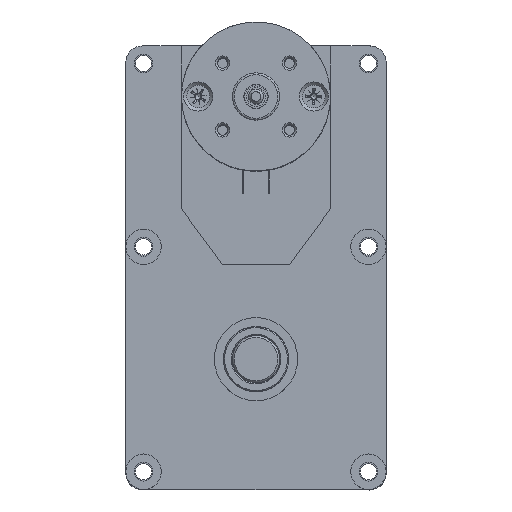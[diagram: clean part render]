
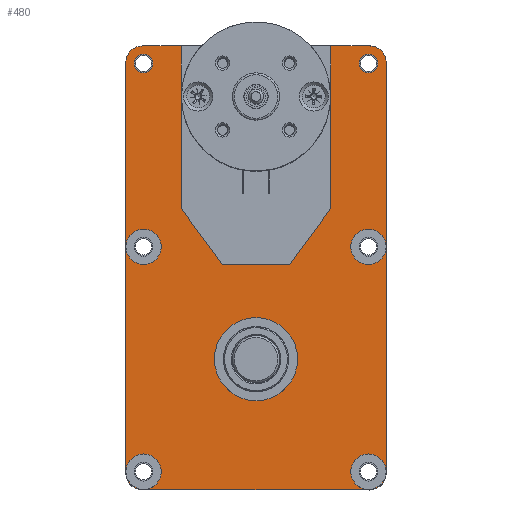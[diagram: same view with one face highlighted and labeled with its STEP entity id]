
A CAD part, top view. The second image highlights one B-rep face of the part: STEP entity #480.
In plain terms, the highlighted planar face has unit normal (0, 0, 1).
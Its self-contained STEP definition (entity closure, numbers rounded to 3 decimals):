
#112=CARTESIAN_POINT('',(25.645,99.833,13.8));
#113=VERTEX_POINT('',#112);
#114=CARTESIAN_POINT('',(25.645,56.117,13.8));
#115=VERTEX_POINT('',#114);
#116=CARTESIAN_POINT('',(25.645,99.833,13.8));
#117=DIRECTION('',(0.0,-1.0,0.0));
#118=VECTOR('',#117,43.716);
#119=LINE('',#116,#118);
#120=EDGE_CURVE('',#113,#115,#119,.T.);
#152=CARTESIAN_POINT('',(14.645,41.117,13.8));
#153=VERTEX_POINT('',#152);
#154=CARTESIAN_POINT('',(25.645,56.117,13.8));
#155=DIRECTION('',(-0.591,-0.806,0.0));
#156=VECTOR('',#155,18.601);
#157=LINE('',#154,#156);
#158=EDGE_CURVE('',#115,#153,#157,.T.);
#183=CARTESIAN_POINT('',(-3.355,41.117,13.8));
#184=VERTEX_POINT('',#183);
#185=CARTESIAN_POINT('',(14.645,41.117,13.8));
#186=DIRECTION('',(-1.0,0.0,0.0));
#187=VECTOR('',#186,18.);
#188=LINE('',#185,#187);
#189=EDGE_CURVE('',#153,#184,#188,.T.);
#214=CARTESIAN_POINT('',(-14.355,56.117,13.8));
#215=VERTEX_POINT('',#214);
#216=CARTESIAN_POINT('',(-3.355,41.117,13.8));
#217=DIRECTION('',(-0.591,0.806,0.0));
#218=VECTOR('',#217,18.601);
#219=LINE('',#216,#218);
#220=EDGE_CURVE('',#184,#215,#219,.T.);
#245=CARTESIAN_POINT('',(-14.355,99.833,13.8));
#246=VERTEX_POINT('',#245);
#247=CARTESIAN_POINT('',(-14.355,56.117,13.8));
#248=DIRECTION('',(0.0,1.0,0.0));
#249=VECTOR('',#248,43.716);
#250=LINE('',#247,#249);
#251=EDGE_CURVE('',#215,#246,#250,.T.);
#301=CARTESIAN_POINT('',(5.645,40.27,13.8));
#302=DIRECTION('',(0.0,0.0,1.0));
#303=DIRECTION('',(1.0,0.0,0.0));
#304=AXIS2_PLACEMENT_3D('',#301,#302,#303);
#305=PLANE('',#304);
#306=ORIENTED_EDGE('',*,*,#120,.T.);
#307=ORIENTED_EDGE('',*,*,#158,.T.);
#308=ORIENTED_EDGE('',*,*,#189,.T.);
#309=ORIENTED_EDGE('',*,*,#220,.T.);
#310=ORIENTED_EDGE('',*,*,#251,.T.);
#311=CARTESIAN_POINT('',(-24.78,99.833,13.8));
#312=VERTEX_POINT('',#311);
#313=CARTESIAN_POINT('',(-24.78,99.833,13.8));
#314=DIRECTION('',(1.0,0.0,0.0));
#315=VECTOR('',#314,10.425);
#316=LINE('',#313,#315);
#317=EDGE_CURVE('',#312,#246,#316,.T.);
#318=ORIENTED_EDGE('',*,*,#317,.F.);
#319=CARTESIAN_POINT('',(-29.28,95.333,13.8));
#320=VERTEX_POINT('',#319);
#321=CARTESIAN_POINT('',(-24.78,95.333,13.8));
#322=DIRECTION('',(0.0,0.0,-1.0));
#323=DIRECTION('',(0.0,-1.0,0.0));
#324=AXIS2_PLACEMENT_3D('',#321,#322,#323);
#325=CIRCLE('',#324,4.5);
#326=EDGE_CURVE('',#320,#312,#325,.T.);
#327=ORIENTED_EDGE('',*,*,#326,.F.);
#328=CARTESIAN_POINT('',(-29.28,45.934,13.8));
#329=VERTEX_POINT('',#328);
#330=CARTESIAN_POINT('',(-29.28,45.934,13.8));
#331=DIRECTION('',(0.0,1.0,0.0));
#332=VECTOR('',#331,49.399);
#333=LINE('',#330,#332);
#334=EDGE_CURVE('',#329,#320,#333,.T.);
#335=ORIENTED_EDGE('',*,*,#334,.F.);
#336=CARTESIAN_POINT('',(-24.53,45.934,13.8));
#337=DIRECTION('',(0.0,0.0,-1.0));
#338=DIRECTION('',(-1.0,0.0,0.0));
#339=AXIS2_PLACEMENT_3D('',#336,#337,#338);
#340=CIRCLE('',#339,4.75);
#341=EDGE_CURVE('',#329,#329,#340,.T.);
#342=ORIENTED_EDGE('',*,*,#341,.T.);
#343=CARTESIAN_POINT('',(-29.28,-14.416,13.8));
#344=VERTEX_POINT('',#343);
#345=CARTESIAN_POINT('',(-29.28,-14.416,13.8));
#346=DIRECTION('',(0.0,1.0,0.0));
#347=VECTOR('',#346,60.35);
#348=LINE('',#345,#347);
#349=EDGE_CURVE('',#344,#329,#348,.T.);
#350=ORIENTED_EDGE('',*,*,#349,.F.);
#351=CARTESIAN_POINT('',(-24.53,-14.416,13.8));
#352=DIRECTION('',(0.0,0.0,-1.0));
#353=DIRECTION('',(-1.0,0.0,0.0));
#354=AXIS2_PLACEMENT_3D('',#351,#352,#353);
#355=CIRCLE('',#354,4.75);
#356=EDGE_CURVE('',#344,#344,#355,.T.);
#357=ORIENTED_EDGE('',*,*,#356,.T.);
#358=CARTESIAN_POINT('',(-29.28,-14.793,13.8));
#359=VERTEX_POINT('',#358);
#360=CARTESIAN_POINT('',(-29.28,-14.793,13.8));
#361=DIRECTION('',(0.0,1.0,0.0));
#362=VECTOR('',#361,0.377);
#363=LINE('',#360,#362);
#364=EDGE_CURVE('',#359,#344,#363,.T.);
#365=ORIENTED_EDGE('',*,*,#364,.F.);
#366=CARTESIAN_POINT('',(-24.78,-19.293,13.8));
#367=VERTEX_POINT('',#366);
#368=CARTESIAN_POINT('',(-24.78,-14.793,13.8));
#369=DIRECTION('',(0.0,0.0,-1.0));
#370=DIRECTION('',(1.0,0.0,0.0));
#371=AXIS2_PLACEMENT_3D('',#368,#369,#370);
#372=CIRCLE('',#371,4.5);
#373=EDGE_CURVE('',#367,#359,#372,.T.);
#374=ORIENTED_EDGE('',*,*,#373,.F.);
#375=CARTESIAN_POINT('',(36.07,-19.293,13.8));
#376=VERTEX_POINT('',#375);
#377=CARTESIAN_POINT('',(36.07,-19.293,13.8));
#378=DIRECTION('',(-1.0,0.0,0.0));
#379=VECTOR('',#378,60.85);
#380=LINE('',#377,#379);
#381=EDGE_CURVE('',#376,#367,#380,.T.);
#382=ORIENTED_EDGE('',*,*,#381,.F.);
#383=CARTESIAN_POINT('',(40.57,-14.793,13.8));
#384=VERTEX_POINT('',#383);
#385=CARTESIAN_POINT('',(36.07,-14.793,13.8));
#386=DIRECTION('',(0.0,0.0,-1.0));
#387=DIRECTION('',(0.0,1.0,0.0));
#388=AXIS2_PLACEMENT_3D('',#385,#386,#387);
#389=CIRCLE('',#388,4.5);
#390=EDGE_CURVE('',#384,#376,#389,.T.);
#391=ORIENTED_EDGE('',*,*,#390,.F.);
#392=CARTESIAN_POINT('',(40.57,-14.416,13.8));
#393=VERTEX_POINT('',#392);
#394=CARTESIAN_POINT('',(40.57,-14.416,13.8));
#395=DIRECTION('',(0.0,-1.0,0.0));
#396=VECTOR('',#395,0.377);
#397=LINE('',#394,#396);
#398=EDGE_CURVE('',#393,#384,#397,.T.);
#399=ORIENTED_EDGE('',*,*,#398,.F.);
#400=CARTESIAN_POINT('',(35.82,-14.416,13.8));
#401=DIRECTION('',(0.0,0.0,-1.0));
#402=DIRECTION('',(-1.0,0.0,0.0));
#403=AXIS2_PLACEMENT_3D('',#400,#401,#402);
#404=CIRCLE('',#403,4.75);
#405=EDGE_CURVE('',#393,#393,#404,.T.);
#406=ORIENTED_EDGE('',*,*,#405,.T.);
#407=CARTESIAN_POINT('',(40.57,45.934,13.8));
#408=VERTEX_POINT('',#407);
#409=CARTESIAN_POINT('',(40.57,45.934,13.8));
#410=DIRECTION('',(0.0,-1.0,0.0));
#411=VECTOR('',#410,60.35);
#412=LINE('',#409,#411);
#413=EDGE_CURVE('',#408,#393,#412,.T.);
#414=ORIENTED_EDGE('',*,*,#413,.F.);
#415=CARTESIAN_POINT('',(35.82,45.934,13.8));
#416=DIRECTION('',(0.0,0.0,-1.0));
#417=DIRECTION('',(-1.0,0.0,0.0));
#418=AXIS2_PLACEMENT_3D('',#415,#416,#417);
#419=CIRCLE('',#418,4.75);
#420=EDGE_CURVE('',#408,#408,#419,.T.);
#421=ORIENTED_EDGE('',*,*,#420,.T.);
#422=CARTESIAN_POINT('',(40.57,95.333,13.8));
#423=VERTEX_POINT('',#422);
#424=CARTESIAN_POINT('',(40.57,95.333,13.8));
#425=DIRECTION('',(0.0,-1.0,0.0));
#426=VECTOR('',#425,49.399);
#427=LINE('',#424,#426);
#428=EDGE_CURVE('',#423,#408,#427,.T.);
#429=ORIENTED_EDGE('',*,*,#428,.F.);
#430=CARTESIAN_POINT('',(36.07,99.833,13.8));
#431=VERTEX_POINT('',#430);
#432=CARTESIAN_POINT('',(36.07,95.333,13.8));
#433=DIRECTION('',(0.0,0.0,-1.0));
#434=DIRECTION('',(-1.0,0.0,0.0));
#435=AXIS2_PLACEMENT_3D('',#432,#433,#434);
#436=CIRCLE('',#435,4.5);
#437=EDGE_CURVE('',#431,#423,#436,.T.);
#438=ORIENTED_EDGE('',*,*,#437,.F.);
#439=CARTESIAN_POINT('',(25.645,99.833,13.8));
#440=DIRECTION('',(1.0,0.0,0.0));
#441=VECTOR('',#440,10.425);
#442=LINE('',#439,#441);
#443=EDGE_CURVE('',#113,#431,#442,.T.);
#444=ORIENTED_EDGE('',*,*,#443,.F.);
#445=EDGE_LOOP('',(#306,#307,#308,#309,#310,#318,#327,#335,#342,#350,#357,#365,#374,#382,#391,#399,#406,#414,#421,#429,#438,#444));
#446=FACE_OUTER_BOUND('',#445,.T.);
#447=CARTESIAN_POINT('',(-22.005,95.134,13.8));
#448=VERTEX_POINT('',#447);
#449=CARTESIAN_POINT('',(-24.53,95.134,13.8));
#450=DIRECTION('',(0.0,0.0,-1.0));
#451=DIRECTION('',(-1.0,0.0,0.0));
#452=AXIS2_PLACEMENT_3D('',#449,#450,#451);
#453=CIRCLE('',#452,2.525);
#454=EDGE_CURVE('',#448,#448,#453,.T.);
#455=ORIENTED_EDGE('',*,*,#454,.T.);
#456=EDGE_LOOP('',(#455));
#457=FACE_BOUND('',#456,.T.);
#458=CARTESIAN_POINT('',(38.345,95.134,13.8));
#459=VERTEX_POINT('',#458);
#460=CARTESIAN_POINT('',(35.82,95.134,13.8));
#461=DIRECTION('',(0.0,0.0,-1.0));
#462=DIRECTION('',(-1.0,0.0,0.0));
#463=AXIS2_PLACEMENT_3D('',#460,#461,#462);
#464=CIRCLE('',#463,2.525);
#465=EDGE_CURVE('',#459,#459,#464,.T.);
#466=ORIENTED_EDGE('',*,*,#465,.T.);
#467=EDGE_LOOP('',(#466));
#468=FACE_BOUND('',#467,.T.);
#469=CARTESIAN_POINT('',(16.795,15.759,13.8));
#470=VERTEX_POINT('',#469);
#471=CARTESIAN_POINT('',(5.645,15.759,13.8));
#472=DIRECTION('',(0.0,0.0,-1.0));
#473=DIRECTION('',(-1.0,0.0,0.0));
#474=AXIS2_PLACEMENT_3D('',#471,#472,#473);
#475=CIRCLE('',#474,11.15);
#476=EDGE_CURVE('',#470,#470,#475,.T.);
#477=ORIENTED_EDGE('',*,*,#476,.T.);
#478=EDGE_LOOP('',(#477));
#479=FACE_BOUND('',#478,.T.);
#480=ADVANCED_FACE('',(#446,#457,#468,#479),#305,.T.);
